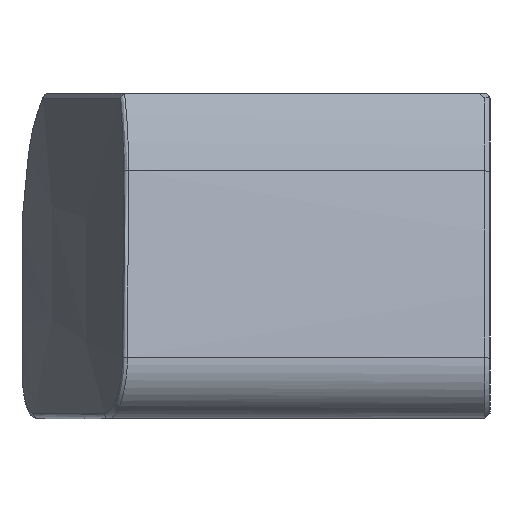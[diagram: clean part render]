
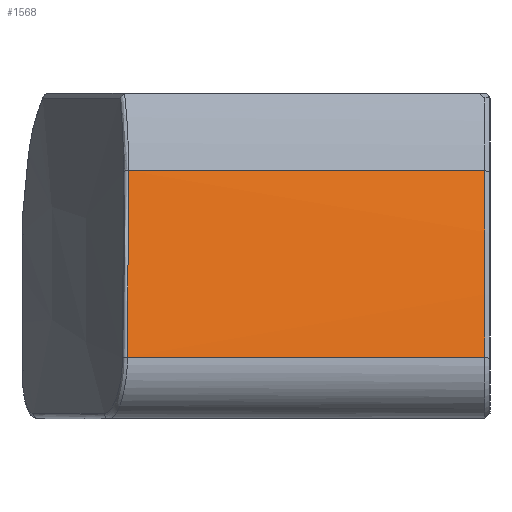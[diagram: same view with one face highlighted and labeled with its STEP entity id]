
A CAD part, left-side view. The second image highlights one B-rep face of the part: STEP entity #1568.
In plain terms, the highlighted cylindrical face has radius 108 mm (diameter 216 mm), a partial arc.
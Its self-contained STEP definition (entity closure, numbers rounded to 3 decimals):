
#1568 = ADVANCED_FACE ( 'NONE', ( #3989 ), #3994, .T. ) ;
#1985 = CARTESIAN_POINT ( 'NONE',  ( 0., -4.6, 0. ) ) ;
#1989 = LINE ( 'NONE', #1990, #3930 ) ;
#1990 = CARTESIAN_POINT ( 'NONE',  ( -106.182, -5., 19.731 ) ) ;
#1991 = DIRECTION ( 'NONE',  ( 0., -1., 0. ) ) ;
#1992 = DIRECTION ( 'NONE',  ( 0., 1., 0. ) ) ;
#1993 = DIRECTION ( 'NONE',  ( 0., 0., 1. ) ) ;
#1995 = LINE ( 'NONE', #1996, #3931 ) ;
#1996 = CARTESIAN_POINT ( 'NONE',  ( -102.49, -5., 34.057 ) ) ;
#2150 = EDGE_CURVE ( 'NONE', #4962, #4963, #1989, .T. ) ;
#2151 = EDGE_CURVE ( 'NONE', #4963, #4960, #4739, .T. ) ;
#2152 = EDGE_CURVE ( 'NONE', #4960, #4961, #1995, .T. ) ;
#2180 = EDGE_CURVE ( 'NONE', #4961, #4962, #3204, .T. ) ;
#2973 = CARTESIAN_POINT ( 'NONE',  ( -102.49, -4.6, 34.057 ) ) ;
#2974 = CARTESIAN_POINT ( 'NONE',  ( -102.49, 22.723, 34.057 ) ) ;
#2975 = CARTESIAN_POINT ( 'NONE',  ( -106.182, 22.802, 19.731 ) ) ;
#2976 = CARTESIAN_POINT ( 'NONE',  ( -106.182, -4.6, 19.731 ) ) ;
#3204 = B_SPLINE_CURVE_WITH_KNOTS ( 'NONE', 3,
 ( #4407, #4417, #4418, #4419 ),
 .UNSPECIFIED., .F., .F.,
 ( 4, 4 ),
 ( 0., 0.015 ),
 .UNSPECIFIED. ) ;
#3447 = EDGE_LOOP ( 'NONE', ( #4141, #4143, #4142, #4144 ) ) ;
#3683 = CARTESIAN_POINT ( 'NONE',  ( 0., -5., 0. ) ) ;
#3684 = DIRECTION ( 'NONE',  ( 0., 1., 0. ) ) ;
#3685 = DIRECTION ( 'NONE',  ( 0., 0., 1. ) ) ;
#3929 = AXIS2_PLACEMENT_3D ( 'NONE', #1985, #1992, #1993 ) ;
#3930 = VECTOR ( 'NONE', #1991, 1000. ) ;
#3931 = VECTOR ( 'NONE', #4261, 1000. ) ;
#3989 = FACE_OUTER_BOUND ( 'NONE', #3447, .T. ) ;
#3994 = CYLINDRICAL_SURFACE ( 'NONE', #3995, 108. ) ;
#3995 = AXIS2_PLACEMENT_3D ( 'NONE', #3683, #3684, #3685 ) ;
#4141 = ORIENTED_EDGE ( 'NONE', *, *, #2152, .T. ) ;
#4142 = ORIENTED_EDGE ( 'NONE', *, *, #2150, .T. ) ;
#4143 = ORIENTED_EDGE ( 'NONE', *, *, #2180, .T. ) ;
#4144 = ORIENTED_EDGE ( 'NONE', *, *, #2151, .T. ) ;
#4261 = DIRECTION ( 'NONE',  ( 0., 1., 0. ) ) ;
#4407 = CARTESIAN_POINT ( 'NONE',  ( -102.49, 22.723, 34.057 ) ) ;
#4417 = CARTESIAN_POINT ( 'NONE',  ( -104.048, 22.732, 29.366 ) ) ;
#4418 = CARTESIAN_POINT ( 'NONE',  ( -105.279, 22.758, 24.591 ) ) ;
#4419 = CARTESIAN_POINT ( 'NONE',  ( -106.182, 22.802, 19.731 ) ) ;
#4739 = CIRCLE ( 'NONE', #3929, 108. ) ;
#4960 = VERTEX_POINT ( 'NONE', #2973 ) ;
#4961 = VERTEX_POINT ( 'NONE', #2974 ) ;
#4962 = VERTEX_POINT ( 'NONE', #2975 ) ;
#4963 = VERTEX_POINT ( 'NONE', #2976 ) ;
